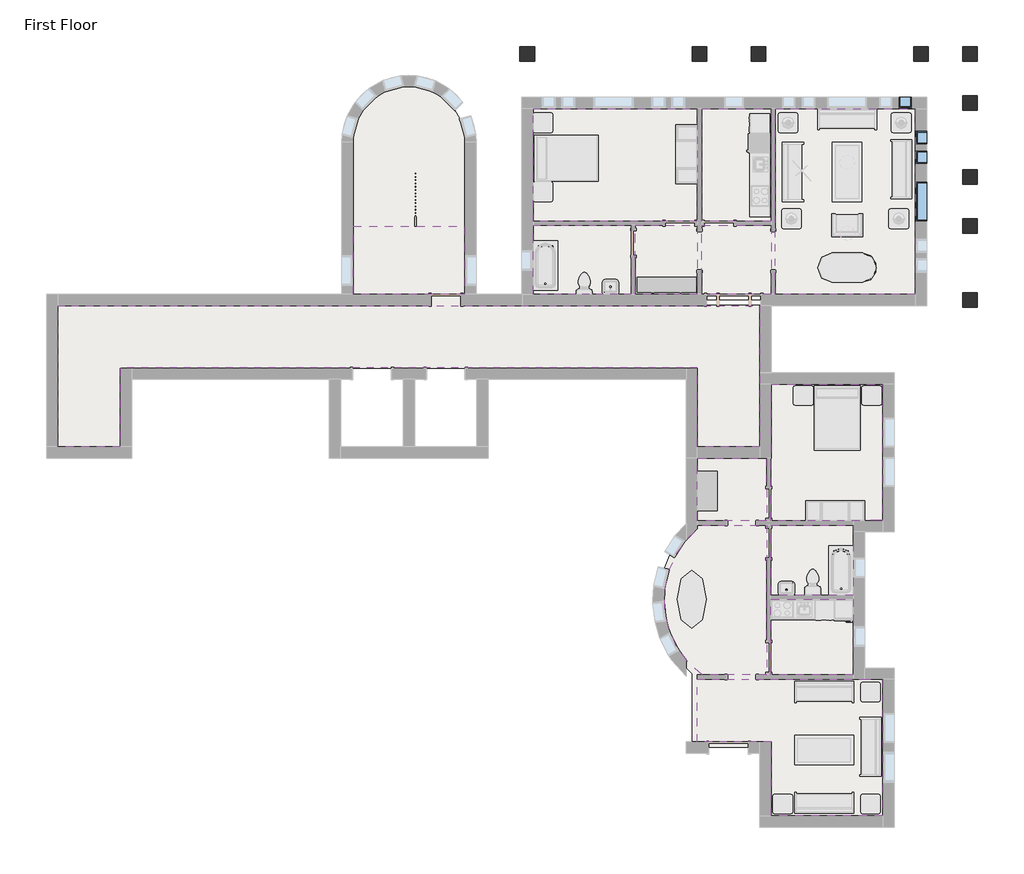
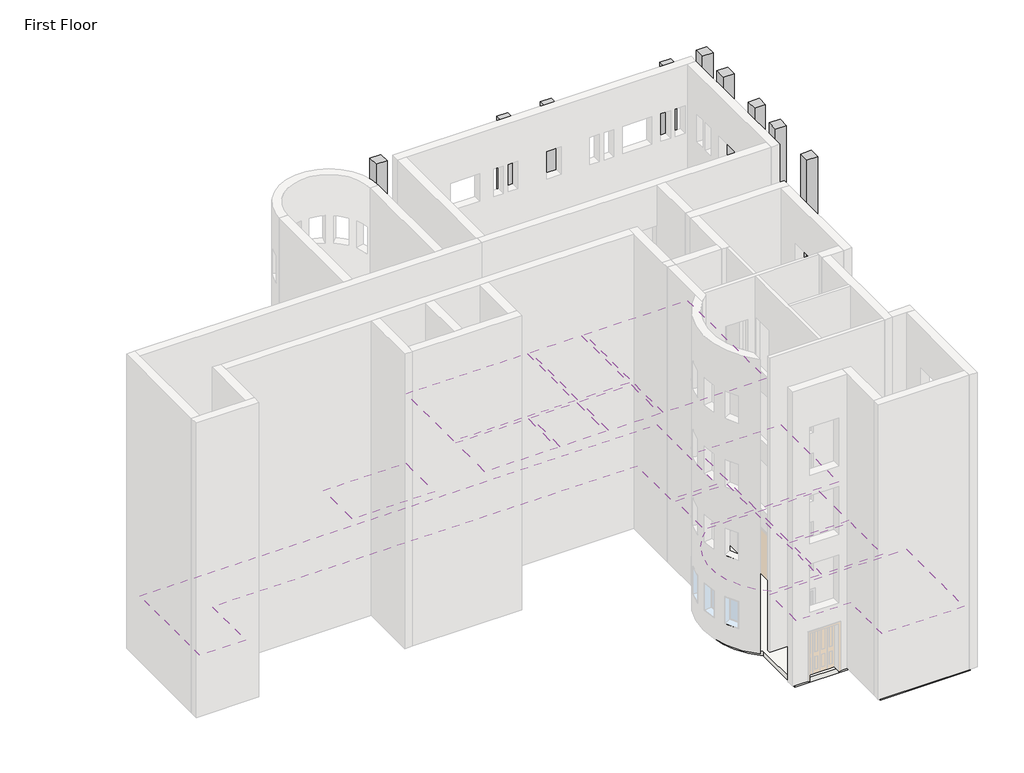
# One storey, part 6 of 8: 14 coverings, 9 columns, 4 windows, 3 slabs.
"""IFC4 building model written with IfcOpenShell, lengths in millimetres."""

from ifc_helpers import new_model, si_unit, point, frame, frame_2d, origin, place, context, project, spatial, polyline, circle_curve, trimmed, segment, composite_curve, outline, extrude, faceted_brep, transform, mapped, element, save
from components import window_da97879f, window_d61ef850, window_6eb97611

model = new_model("IFC4")

# Units and contexts
model_context = context("Model", 3, world=origin())
ifc_project = project(units=[si_unit("LENGTHUNIT", "METRE", prefix="MILLI")], contexts=[model_context])

# Site, building, storey
site = spatial("IfcSite", under=ifc_project)
building = spatial("IfcBuilding", under=site)
storey = spatial("IfcBuildingStorey", under=building, Name="First Floor", Elevation=0.0)

# Columns
placement = place(None, origin())
element("IfcColumn", 1, ObjectType="Concrete-Square-Column : 18 x 18", at=placement, inside=storey, context=model_context, shape_type="Brep", body=[
    faceted_brep([(1027.1410437, 12198.8316867, -2743.2), (1027.1410437, 11741.6316867, -2743.2), (569.9410437, 11741.6316867, -2743.2), (569.9410437, 12198.8316867, -2743.2), (1027.1410437, 12198.8316867, 12039.6), (1027.1410437, 11741.6316867, 12039.6), (1027.1410437, 11741.6316867, 11734.8), (1027.1410437, 11741.6316867, 9144.0), (1027.1410437, 11741.6316867, 8686.8), (1027.1410437, 11741.6316867, 6096.0), (1027.1410437, 11741.6316867, 5638.8), (1027.1410437, 11741.6316867, 3048.0), (1027.1410437, 11741.6316867, 2590.8), (1027.1410437, 12198.8316867, 2590.8), (1027.1410437, 12198.8316867, 3048.0), (1027.1410437, 12198.8316867, 5638.8), (1027.1410437, 12198.8316867, 6096.0), (1027.1410437, 12198.8316867, 8686.8), (1027.1410437, 12198.8316867, 9144.0), (1027.1410437, 12198.8316867, 11734.8), (569.9410437, 11741.6316867, 12039.6), (569.9410437, 11741.6316867, 11734.8), (569.9410437, 11741.6316867, 9144.0), (569.9410437, 11741.6316867, 8686.8), (569.9410437, 11741.6316867, 6096.0), (569.9410437, 11741.6316867, 5638.8), (569.9410437, 11741.6316867, 3048.0), (569.9410437, 11741.6316867, 2590.8), (569.9410437, 12198.8316867, 12039.6), (569.9410437, 12198.8316867, 11734.8), (569.9410437, 12198.8316867, 9144.0), (569.9410437, 12198.8316867, 8686.8), (569.9410437, 12198.8316867, 6096.0), (569.9410437, 12198.8316867, 5638.8), (569.9410437, 12198.8316867, 3048.0), (569.9410437, 12198.8316867, 2590.8)], [[[0, 1, 2, 3]], [[4, 5, 6, 7, 8, 9, 10, 11, 12, 1, 0, 13, 14, 15, 16, 17, 18, 19]], [[5, 20, 21, 22, 23, 24, 25, 26, 27, 2, 1, 12, 11, 10, 9, 8, 7, 6]], [[20, 28, 29, 30, 31, 32, 33, 34, 35, 3, 2, 27, 26, 25, 24, 23, 22, 21]], [[28, 4, 19, 18, 17, 16, 15, 14, 13, 0, 3, 35, 34, 33, 32, 31, 30, 29]], [[4, 28, 20, 5]]]),
])
element("IfcColumn", 2, ObjectType="Concrete-Square-Column : 18 x 18", at=placement, inside=storey, context=model_context, shape_type="Brep", body=[
    faceted_brep([(2551.1410437, 12198.8316867, -2743.2), (2551.1410437, 11741.6316867, -2743.2), (2093.9410437, 11741.6316867, -2743.2), (2093.9410437, 12198.8316867, -2743.2), (2551.1410437, 12198.8316867, 12039.6), (2551.1410437, 11741.6316867, 12039.6), (2551.1410437, 11741.6316867, 11734.8), (2093.9410437, 11741.6316867, 12039.6), (2093.9410437, 11741.6316867, 11734.8), (2093.9410437, 12198.8316867, 12039.6), (2093.9410437, 12198.8316867, 11734.8)], [[[0, 1, 2, 3]], [[4, 5, 6, 1, 0]], [[5, 7, 8, 2, 1, 6]], [[7, 9, 10, 3, 2, 8]], [[9, 4, 0, 3, 10]], [[4, 9, 7, 5]]]),
])
element("IfcColumn", 3, ObjectType="Concrete-Square-Column : 18 x 18", at=placement, inside=storey, context=model_context, shape_type="Brep", body=[
    faceted_brep([(-4002.0589563, 12198.8316867, -2743.2), (-4002.0589563, 11741.6316867, -2743.2), (-4459.2589563, 11741.6316867, -2743.2), (-4459.2589563, 12198.8316867, -2743.2), (-4002.0589563, 12198.8316867, 12039.6), (-4002.0589563, 11741.6316867, 12039.6), (-4002.0589563, 11741.6316867, 11734.8), (-4002.0589563, 11741.6316867, 9144.0), (-4002.0589563, 11741.6316867, 8686.8), (-4002.0589563, 11741.6316867, 6096.0), (-4002.0589563, 11741.6316867, 5638.8), (-4002.0589563, 11741.6316867, 3048.0), (-4002.0589563, 11741.6316867, 2590.8), (-4002.0589563, 12198.8316867, 2590.8), (-4002.0589563, 12198.8316867, 3048.0), (-4002.0589563, 12198.8316867, 5638.8), (-4002.0589563, 12198.8316867, 6096.0), (-4002.0589563, 12198.8316867, 8686.8), (-4002.0589563, 12198.8316867, 9144.0), (-4002.0589563, 12198.8316867, 11734.8), (-4459.2589563, 11741.6316867, 12039.6), (-4459.2589563, 11741.6316867, 11734.8), (-4459.2589563, 11741.6316867, 9144.0), (-4459.2589563, 11741.6316867, 8686.8), (-4459.2589563, 11741.6316867, 6096.0), (-4459.2589563, 11741.6316867, 5638.8), (-4459.2589563, 11741.6316867, 3048.0), (-4459.2589563, 11741.6316867, 2590.8), (-4459.2589563, 12198.8316867, 12039.6), (-4459.2589563, 12198.8316867, 11734.8), (-4459.2589563, 12198.8316867, 9144.0), (-4459.2589563, 12198.8316867, 8686.8), (-4459.2589563, 12198.8316867, 6096.0), (-4459.2589563, 12198.8316867, 5638.8), (-4459.2589563, 12198.8316867, 3048.0), (-4459.2589563, 12198.8316867, 2590.8)], [[[0, 1, 2, 3]], [[4, 5, 6, 7, 8, 9, 10, 11, 12, 1, 0, 13, 14, 15, 16, 17, 18, 19]], [[5, 20, 21, 22, 23, 24, 25, 26, 27, 2, 1, 12, 11, 10, 9, 8, 7, 6]], [[20, 28, 29, 30, 31, 32, 33, 34, 35, 3, 2, 27, 26, 25, 24, 23, 22, 21]], [[28, 4, 19, 18, 17, 16, 15, 14, 13, 0, 3, 35, 34, 33, 32, 31, 30, 29]], [[4, 28, 20, 5]]]),
])
element("IfcColumn", 4, ObjectType="Concrete-Square-Column : 18 x 18", at=placement, inside=storey, context=model_context, shape_type="Brep", body=[
    faceted_brep([(-5830.8589563, 12198.8316867, -2743.2), (-5830.8589563, 11741.6316867, -2743.2), (-6288.0589563, 11741.6316867, -2743.2), (-6288.0589563, 12198.8316867, -2743.2), (-5830.8589563, 12198.8316867, 12039.6), (-5830.8589563, 11741.6316867, 12039.6), (-5830.8589563, 11741.6316867, 11734.8), (-5830.8589563, 11741.6316867, 9144.0), (-5830.8589563, 11741.6316867, 8686.8), (-5830.8589563, 11741.6316867, 6096.0), (-5830.8589563, 11741.6316867, 5638.8), (-5830.8589563, 11741.6316867, 3048.0), (-5830.8589563, 11741.6316867, 2590.8), (-5830.8589563, 12198.8316867, 2590.8), (-5830.8589563, 12198.8316867, 3048.0), (-5830.8589563, 12198.8316867, 5638.8), (-5830.8589563, 12198.8316867, 6096.0), (-5830.8589563, 12198.8316867, 8686.8), (-5830.8589563, 12198.8316867, 9144.0), (-5830.8589563, 12198.8316867, 11734.8), (-6288.0589563, 11741.6316867, 12039.6), (-6288.0589563, 11741.6316867, 11734.8), (-6288.0589563, 11741.6316867, 9144.0), (-6288.0589563, 11741.6316867, 8686.8), (-6288.0589563, 11741.6316867, 6096.0), (-6288.0589563, 11741.6316867, 5638.8), (-6288.0589563, 11741.6316867, 3048.0), (-6288.0589563, 11741.6316867, 2590.8), (-6288.0589563, 12198.8316867, 12039.6), (-6288.0589563, 12198.8316867, 11734.8), (-6288.0589563, 12198.8316867, 9144.0), (-6288.0589563, 12198.8316867, 8686.8), (-6288.0589563, 12198.8316867, 6096.0), (-6288.0589563, 12198.8316867, 5638.8), (-6288.0589563, 12198.8316867, 3048.0), (-6288.0589563, 12198.8316867, 2590.8)], [[[0, 1, 2, 3]], [[4, 5, 6, 7, 8, 9, 10, 11, 12, 1, 0, 13, 14, 15, 16, 17, 18, 19]], [[5, 20, 21, 22, 23, 24, 25, 26, 27, 2, 1, 12, 11, 10, 9, 8, 7, 6]], [[20, 28, 29, 30, 31, 32, 33, 34, 35, 3, 2, 27, 26, 25, 24, 23, 22, 21]], [[28, 4, 19, 18, 17, 16, 15, 14, 13, 0, 3, 35, 34, 33, 32, 31, 30, 29]], [[4, 28, 20, 5]]]),
])
element("IfcColumn", 5, ObjectType="Concrete-Square-Column : 18 x 18", at=placement, inside=storey, context=model_context, shape_type="Brep", body=[
    faceted_brep([(-11164.8589563, 12198.8316867, -2743.2), (-11164.8589563, 11741.6316867, -2743.2), (-11622.0589563, 11741.6316867, -2743.2), (-11622.0589563, 12198.8316867, -2743.2), (-11164.8589563, 12198.8316867, 12039.6), (-11164.8589563, 11741.6316867, 12039.6), (-11164.8589563, 11741.6316867, 11734.8), (-11164.8589563, 12198.8316867, 11734.8), (-11622.0589563, 11741.6316867, 12039.6), (-11622.0589563, 12198.8316867, 12039.6)], [[[0, 1, 2, 3]], [[4, 5, 6, 1, 0, 7]], [[5, 8, 2, 1, 6]], [[8, 9, 3, 2]], [[9, 4, 7, 0, 3]], [[4, 9, 8, 5]]]),
])
element("IfcColumn", 6, ObjectType="Concrete-Square-Column : 18 x 18", at=placement, inside=storey, context=model_context, shape_type="Brep", body=[
    faceted_brep([(2551.1410437, 10674.8316867, -2743.2), (2551.1410437, 10217.6316867, -2743.2), (2093.9410437, 10217.6316867, -2743.2), (2093.9410437, 10674.8316867, -2743.2), (2551.1410437, 10674.8316867, 12039.6), (2551.1410437, 10217.6316867, 12039.6), (2551.1410437, 10217.6316867, 11734.8), (2551.1410437, 10217.6316867, 9144.0), (2551.1410437, 10217.6316867, 8686.8), (2551.1410437, 10217.6316867, 6096.0), (2551.1410437, 10217.6316867, 5638.8), (2551.1410437, 10217.6316867, 3048.0), (2551.1410437, 10217.6316867, 2590.8), (2551.1410437, 10674.8316867, 2590.8), (2551.1410437, 10674.8316867, 3048.0), (2551.1410437, 10674.8316867, 5638.8), (2551.1410437, 10674.8316867, 6096.0), (2551.1410437, 10674.8316867, 8686.8), (2551.1410437, 10674.8316867, 9144.0), (2551.1410437, 10674.8316867, 11734.8), (2093.9410437, 10217.6316867, 12039.6), (2093.9410437, 10217.6316867, 11734.8), (2093.9410437, 10217.6316867, 9144.0), (2093.9410437, 10217.6316867, 8686.8), (2093.9410437, 10217.6316867, 6096.0), (2093.9410437, 10217.6316867, 5638.8), (2093.9410437, 10217.6316867, 3048.0), (2093.9410437, 10217.6316867, 2590.8), (2093.9410437, 10674.8316867, 12039.6), (2093.9410437, 10674.8316867, 11734.8), (2093.9410437, 10674.8316867, 9144.0), (2093.9410437, 10674.8316867, 8686.8), (2093.9410437, 10674.8316867, 6096.0), (2093.9410437, 10674.8316867, 5638.8), (2093.9410437, 10674.8316867, 3048.0), (2093.9410437, 10674.8316867, 2590.8)], [[[0, 1, 2, 3]], [[4, 5, 6, 7, 8, 9, 10, 11, 12, 1, 0, 13, 14, 15, 16, 17, 18, 19]], [[5, 20, 21, 22, 23, 24, 25, 26, 27, 2, 1, 12, 11, 10, 9, 8, 7, 6]], [[20, 28, 29, 30, 31, 32, 33, 34, 35, 3, 2, 27, 26, 25, 24, 23, 22, 21]], [[28, 4, 19, 18, 17, 16, 15, 14, 13, 0, 3, 35, 34, 33, 32, 31, 30, 29]], [[4, 28, 20, 5]]]),
])
element("IfcColumn", 7, ObjectType="Concrete-Square-Column : 18 x 18", at=placement, inside=storey, context=model_context, shape_type="Brep", body=[
    faceted_brep([(2551.1410437, 8388.8316867, -2743.2), (2551.1410437, 7931.6316867, -2743.2), (2093.9410437, 7931.6316867, -2743.2), (2093.9410437, 8388.8316867, -2743.2), (2551.1410437, 8388.8316867, 12039.6), (2551.1410437, 7931.6316867, 12039.6), (2551.1410437, 7931.6316867, 11734.8), (2551.1410437, 7931.6316867, 9144.0), (2551.1410437, 7931.6316867, 8686.8), (2551.1410437, 7931.6316867, 6096.0), (2551.1410437, 7931.6316867, 5638.8), (2551.1410437, 7931.6316867, 3048.0), (2551.1410437, 7931.6316867, 2590.8), (2551.1410437, 8388.8316867, 2590.8), (2551.1410437, 8388.8316867, 3048.0), (2551.1410437, 8388.8316867, 5638.8), (2551.1410437, 8388.8316867, 6096.0), (2551.1410437, 8388.8316867, 8686.8), (2551.1410437, 8388.8316867, 9144.0), (2551.1410437, 8388.8316867, 11734.8), (2093.9410437, 7931.6316867, 12039.6), (2093.9410437, 7931.6316867, 11734.8), (2093.9410437, 7931.6316867, 9144.0), (2093.9410437, 7931.6316867, 8686.8), (2093.9410437, 7931.6316867, 6096.0), (2093.9410437, 7931.6316867, 5638.8), (2093.9410437, 7931.6316867, 3048.0), (2093.9410437, 7931.6316867, 2590.8), (2093.9410437, 8388.8316867, 12039.6), (2093.9410437, 8388.8316867, 11734.8), (2093.9410437, 8388.8316867, 9144.0), (2093.9410437, 8388.8316867, 8686.8), (2093.9410437, 8388.8316867, 6096.0), (2093.9410437, 8388.8316867, 5638.8), (2093.9410437, 8388.8316867, 3048.0), (2093.9410437, 8388.8316867, 2590.8)], [[[0, 1, 2, 3]], [[4, 5, 6, 7, 8, 9, 10, 11, 12, 1, 0, 13, 14, 15, 16, 17, 18, 19]], [[5, 20, 21, 22, 23, 24, 25, 26, 27, 2, 1, 12, 11, 10, 9, 8, 7, 6]], [[20, 28, 29, 30, 31, 32, 33, 34, 35, 3, 2, 27, 26, 25, 24, 23, 22, 21]], [[28, 4, 19, 18, 17, 16, 15, 14, 13, 0, 3, 35, 34, 33, 32, 31, 30, 29]], [[4, 28, 20, 5]]]),
])
element("IfcColumn", 8, ObjectType="Concrete-Square-Column : 18 x 18", at=placement, inside=storey, context=model_context, shape_type="Brep", body=[
    faceted_brep([(2551.1410437, 6864.8316867, -2743.2), (2551.1410437, 6407.6316867, -2743.2), (2093.9410437, 6407.6316867, -2743.2), (2093.9410437, 6864.8316867, -2743.2), (2551.1410437, 6864.8316867, 12039.6), (2551.1410437, 6407.6316867, 12039.6), (2551.1410437, 6407.6316867, 11734.8), (2551.1410437, 6407.6316867, 9144.0), (2551.1410437, 6407.6316867, 8686.8), (2551.1410437, 6407.6316867, 6096.0), (2551.1410437, 6407.6316867, 5638.8), (2551.1410437, 6407.6316867, 3048.0), (2551.1410437, 6407.6316867, 2590.8), (2551.1410437, 6864.8316867, 2590.8), (2551.1410437, 6864.8316867, 3048.0), (2551.1410437, 6864.8316867, 5638.8), (2551.1410437, 6864.8316867, 6096.0), (2551.1410437, 6864.8316867, 8686.8), (2551.1410437, 6864.8316867, 9144.0), (2551.1410437, 6864.8316867, 11734.8), (2093.9410437, 6407.6316867, 12039.6), (2093.9410437, 6407.6316867, 11734.8), (2093.9410437, 6407.6316867, 9144.0), (2093.9410437, 6407.6316867, 8686.8), (2093.9410437, 6407.6316867, 6096.0), (2093.9410437, 6407.6316867, 5638.8), (2093.9410437, 6407.6316867, 3048.0), (2093.9410437, 6407.6316867, 2590.8), (2093.9410437, 6864.8316867, 12039.6), (2093.9410437, 6864.8316867, 11734.8), (2093.9410437, 6864.8316867, 9144.0), (2093.9410437, 6864.8316867, 8686.8), (2093.9410437, 6864.8316867, 6096.0), (2093.9410437, 6864.8316867, 5638.8), (2093.9410437, 6864.8316867, 3048.0), (2093.9410437, 6864.8316867, 2590.8)], [[[0, 1, 2, 3]], [[4, 5, 6, 7, 8, 9, 10, 11, 12, 1, 0, 13, 14, 15, 16, 17, 18, 19]], [[5, 20, 21, 22, 23, 24, 25, 26, 27, 2, 1, 12, 11, 10, 9, 8, 7, 6]], [[20, 28, 29, 30, 31, 32, 33, 34, 35, 3, 2, 27, 26, 25, 24, 23, 22, 21]], [[28, 4, 19, 18, 17, 16, 15, 14, 13, 0, 3, 35, 34, 33, 32, 31, 30, 29]], [[4, 28, 20, 5]]]),
])
element("IfcColumn", 9, ObjectType="Concrete-Square-Column : 18 x 18", at=placement, inside=storey, context=model_context, shape_type="Brep", body=[
    faceted_brep([(2551.1410437, 4578.8316867, -2743.2), (2551.1410437, 4121.6316867, -2743.2), (2093.9410437, 4121.6316867, -2743.2), (2093.9410437, 4578.8316867, -2743.2), (2551.1410437, 4578.8316867, 12039.6), (2551.1410437, 4121.6316867, 12039.6), (2551.1410437, 4578.8316867, 11734.8), (2093.9410437, 4121.6316867, 12039.6), (2093.9410437, 4578.8316867, 12039.6), (2093.9410437, 4578.8316867, 11734.8)], [[[0, 1, 2, 3]], [[4, 5, 1, 0, 6]], [[5, 7, 2, 1]], [[7, 8, 9, 3, 2]], [[8, 4, 6, 0, 3, 9]], [[4, 8, 7, 5]]]),
])

# Coverings
element("IfcCovering", 10, ObjectType="GWB on Mtl. Stud", at=placement, inside=storey, context=model_context, shape_type="SweptSolid", body=[
    extrude(outline(polyline([(-11217.2464563, 10270.0191867), (-6122.9589563, 10270.0191867), (-6122.9589563, 6787.0441867), (-11217.2464563, 6787.0441867), (-11217.2464563, 10270.0191867)])), frame((0.0, 0.0, 2590.8), z_axis=(0.0, 0.0, 1.0), x_axis=(1.0, 0.0, 0.0)), (0.0, 0.0, 1.0), 107.95),
])
element("IfcCovering", 11, ObjectType="GWB on Mtl. Stud", at=placement, inside=storey, context=model_context, shape_type="SweptSolid", body=[
    extrude(outline(polyline([(-5995.9589563, 6787.0441867), (-5995.9589563, 10270.0191867), (-3836.9589563, 10270.0191867), (-3836.9589563, 6787.0441867), (-5995.9589563, 6787.0441867)])), frame((0.0, 0.0, 2590.8), z_axis=(0.0, 0.0, 1.0), x_axis=(1.0, 0.0, 0.0)), (0.0, 0.0, 1.0), 107.95),
])
element("IfcCovering", 12, ObjectType="GWB on Mtl. Stud", at=placement, inside=storey, context=model_context, shape_type="SweptSolid", body=[
    extrude(outline(polyline([(-3709.9589563, 4526.4441867), (-3709.9589563, 10270.0191867), (622.3285437, 10270.0191867), (622.3285437, 4526.4441867), (-3709.9589563, 4526.4441867)])), frame((0.0, 0.0, 2590.8), z_axis=(0.0, 0.0, 1.0), x_axis=(1.0, 0.0, 0.0)), (0.0, 0.0, 1.0), 107.95),
])
element("IfcCovering", 13, ObjectType="GWB on Mtl. Stud", at=placement, inside=storey, context=model_context, shape_type="SweptSolid", body=[
    extrude(outline(polyline([(-3836.9589563, 4526.4441867), (-5995.9589563, 4526.4441867), (-5995.9589563, 6660.0441867), (-3836.9589563, 6660.0441867), (-3836.9589563, 4526.4441867)])), frame((0.0, 0.0, 2590.8), z_axis=(0.0, 0.0, 1.0), x_axis=(1.0, 0.0, 0.0)), (0.0, 0.0, 1.0), 107.95),
])
element("IfcCovering", 14, ObjectType="GWB on Mtl. Stud", at=placement, inside=storey, context=model_context, shape_type="SweptSolid", body=[
    extrude(outline(polyline([(-8169.2464563, 6660.0441867), (-8169.2464563, 4526.4441867), (-11217.2464563, 4526.4441867), (-11217.2464563, 6660.0441867), (-8169.2464563, 6660.0441867)])), frame((0.0, 0.0, 2590.8), z_axis=(0.0, 0.0, 1.0), x_axis=(1.0, 0.0, 0.0)), (0.0, 0.0, 1.0), 107.95),
])
element("IfcCovering", 15, ObjectType="GWB on Mtl. Stud", at=placement, inside=storey, context=model_context, shape_type="SweptSolid", body=[
    extrude(outline(polyline([(-6122.9589563, 4526.4441867), (-8042.2464563, 4526.4441867), (-8042.2464563, 6660.0441867), (-6122.9589563, 6660.0441867), (-6122.9589563, 4526.4441867)])), frame((0.0, 0.0, 2590.8), z_axis=(0.0, 0.0, 1.0), x_axis=(1.0, 0.0, 0.0)), (0.0, 0.0, 1.0), 107.95),
])
element("IfcCovering", 16, ObjectType="GWB on Mtl. Stud", at=placement, inside=storey, context=model_context, shape_type="SweptSolid", body=[
    extrude(outline(polyline([(-13333.3839563, 4526.4441867), (-16790.9589563, 4526.4441867), (-16790.9589563, 6636.2316867), (-13333.3839563, 6636.2316867), (-13333.3839563, 4526.4441867)])), frame((0.0, 0.0, 2438.4), z_axis=(0.0, 0.0, 1.0), x_axis=(1.0, 0.0, 0.0)), (0.0, 0.0, 1.0), 107.95),
])
element("IfcCovering", 17, ObjectType="GWB on Mtl. Stud", at=placement, inside=storey, context=model_context, shape_type="SweptSolid", body=[
    extrude(outline(polyline([(-6122.9589563, -197.9558133), (-6122.9589563, 2240.4441867), (-24001.3839563, 2240.4441867), (-24001.3839563, -197.9558133), (-25934.9589563, -197.9558133), (-25934.9589563, 4174.0191867), (-4189.3839563, 4174.0191867), (-4189.3839563, -197.9558133), (-6122.9589563, -197.9558133)])), frame((0.0, 0.0, 2438.4), z_axis=(0.0, 0.0, 1.0), x_axis=(1.0, 0.0, 0.0)), (0.0, 0.0, 1.0), 107.95),
])
element("IfcCovering", 18, ObjectType="Plain", at=placement, inside=storey, context=model_context, shape_type="SweptSolid", body=[
    extrude(outline(polyline([(-3836.9589563, -374.1683133), (-3836.9589563, 1735.6191867), (-379.3839563, 1735.6191867), (-379.3839563, -2483.9558133), (-1117.5714563, -2483.9558133), (-1117.5714563, -2492.4183133), (-3845.4214563, -2492.4183133), (-3845.4214563, -374.1683133), (-3836.9589563, -374.1683133)])), frame((0.0, 0.0, 2591.0), z_axis=(0.0, 0.0, 1.0), x_axis=(1.0, 0.0, 0.0)), (0.0, 0.0, 1.0), 57.0),
])
element("IfcCovering", 19, ObjectType="Plain", at=placement, inside=storey, context=model_context, shape_type="SweptSolid", body=[
    extrude(outline(polyline([(-3845.4214563, -2627.9183133), (-1293.7839563, -2627.9183133), (-1293.7839563, -4793.7683133), (-3845.4214563, -4793.7683133), (-3845.4214563, -2627.9183133)])), frame((0.0, 0.0, 2591.0), z_axis=(0.0, 0.0, 1.0), x_axis=(1.0, 0.0, 0.0)), (0.0, 0.0, 1.0), 57.0),
])
element("IfcCovering", 20, ObjectType="Plain", at=placement, inside=storey, context=model_context, shape_type="SweptSolid", body=[
    extrude(outline(polyline([(-3845.4214563, -4929.2683133), (-1293.7839563, -4929.2683133), (-1293.7839563, -7264.4183133), (-3845.4214563, -7264.4183133), (-3845.4214563, -4929.2683133)])), frame((0.0, 0.0, 2591.0), z_axis=(0.0, 0.0, 1.0), x_axis=(1.0, 0.0, 0.0)), (0.0, 0.0, 1.0), 57.0),
])
element("IfcCovering", 21, ObjectType="Plain", at=placement, inside=storey, context=model_context, shape_type="SweptSolid", body=[
    extrude(outline(polyline([(-6122.9589563, -7399.9183133), (-1117.5714563, -7399.9183133), (-1117.5714563, -7408.3808133), (-379.3839563, -7408.3808133), (-379.3839563, -11627.9558133), (-3836.9589563, -11627.9558133), (-3836.9589563, -9341.9558133), (-6122.9589563, -9341.9558133), (-6122.9589563, -7399.9183133)])), frame((0.0, 0.0, 2591.0), z_axis=(0.0, 0.0, 1.0), x_axis=(1.0, 0.0, 0.0)), (0.0, 0.0, 1.0), 57.0),
])
element("IfcCovering", 22, ObjectType="Plain", at=placement, inside=storey, context=model_context, shape_type="SweptSolid", body=[
    extrude(outline(composite_curve([segment(trimmed(circle_curve(frame_2d((-4283.1089573, -4946.1683133)), 2871.7875), [point((-5978.0662968, -7264.4183133))], [point((-5978.0662968, -2627.9183133))], False, "CARTESIAN"), True, "CONTINUOUS"), segment(polyline([(-5978.0662968, -2627.9183133), (-3980.9214563, -2627.9183133), (-3980.9214563, -7264.4183133), (-5978.0662968, -7264.4183133)]), True, "CONTINUOUS")], self_intersect=False)), frame((0.0, 0.0, 2591.0), z_axis=(0.0, 0.0, 1.0), x_axis=(1.0, 0.0, 0.0)), (0.0, 0.0, 1.0), 57.0),
])
element("IfcCovering", 23, ObjectType="Plain", at=placement, inside=storey, context=model_context, shape_type="SweptSolid", body=[
    extrude(outline(polyline([(-6122.9589563, -2492.4183133), (-6122.9589563, -550.3808133), (-3980.9214563, -550.3808133), (-3980.9214563, -2492.4183133), (-6122.9589563, -2492.4183133)])), frame((0.0, 0.0, 2591.0), z_axis=(0.0, 0.0, 1.0), x_axis=(1.0, 0.0, 0.0)), (0.0, 0.0, 1.0), 57.0),
])

# Slabs
element("IfcSlab", 24, ObjectType="160mm Concrete With 50mm Metal Deck", at=placement, inside=storey, context=model_context, shape_type="SweptSolid", body=[
    extrude(outline(composite_curve([segment(polyline([(-214.2839563, 1900.7191867), (-214.2839563, -2649.0558133), (-1128.6839563, -2649.0558133), (-1128.6839563, -7243.2808133), (-214.2839563, -7243.2808133), (-214.2839563, -11793.0558133), (-4002.0589563, -11793.0558133), (-4002.0589563, -9507.0558133), (-6288.0589563, -9507.0558133), (-6288.0589563, -7227.1464344)]), True, "CONTINUOUS"), segment(trimmed(circle_curve(frame_2d((-4283.1089573, -4946.1683133)), 3036.8875), [point((-6288.0589563, -7227.1464344))], [point((-6288.0589563, -2665.1901922))], False, "CARTESIAN"), True, "CONTINUOUS"), segment(polyline([(-6288.0589563, -2665.1901922), (-6288.0589563, -385.2808133), (-4002.0589563, -385.2808133), (-4002.0589563, 1900.7191867), (-214.2839563, 1900.7191867)]), True, "CONTINUOUS")], self_intersect=False)), frame((0.0, 0.0, -210.0), z_axis=(0.0, 0.0, 1.0), x_axis=(1.0, 0.0, 0.0)), (0.0, 0.0, 1.0), 210.0),
])
element("IfcSlab", 25, ObjectType="LW Concrete on Metal Deck", at=placement, inside=storey, context=model_context, shape_type="SweptSolid", body=[
    extrude(outline(polyline([(787.4285437, 10435.1191867), (787.4285437, 4361.3441867), (-11382.3464563, 4361.3441867), (-11382.3464563, 10435.1191867), (787.4285437, 10435.1191867)])), frame((0.0, 0.0, -104.775), z_axis=(0.0, 0.0, 1.0), x_axis=(1.0, 0.0, 0.0)), (0.0, 0.0, 1.0), 104.775),
])
element("IfcSlab", 26, ObjectType="LW Concrete on Metal Deck", at=placement, inside=storey, context=model_context, shape_type="SweptSolid", body=[
    extrude(outline(composite_curve([segment(polyline([(-13320.6839563, 9227.0316867), (-13320.6839563, 4186.7191867), (-4189.3839563, 4186.7191867), (-4189.3839563, -197.9558133), (-6135.6589563, -197.9558133), (-6135.6589563, 2227.7441867), (-23988.6839563, 2227.7441867), (-23988.6839563, -197.9558133), (-25934.9589563, -197.9558133), (-25934.9589563, 4186.7191867), (-16803.6589563, 4186.7191867), (-16803.6589563, 9227.0316867)]), True, "CONTINUOUS"), segment(trimmed(circle_curve(frame_2d((-15062.1714563, 9227.0316867)), 1741.4875), [point((-16803.6589563, 9227.0316867))], [point((-13320.6839563, 9227.0316867))], False, "CARTESIAN"), True, "CONTINUOUS")], self_intersect=False)), frame((0.0, 0.0, -104.775), z_axis=(0.0, 0.0, 1.0), x_axis=(1.0, 0.0, 0.0)), (0.0, 0.0, 1.0), 104.775),
])

# Windows
window_shape = window_da97879f(model_context)
element("IfcWindow", 27, ObjectType="Fixed : 16\" x 48\"", at=placement, inside=storey, context=model_context, shape_type="MappedRepresentation", body=[
    mapped(window_shape, transform((798.5410437, 9417.5316867, 0.0), x_axis=(0.0, 1.0, 0.0), y_axis=(-1.0, 0.0, 0.0), z_axis=(0.0, 0.0, 1.0))),
])
element("IfcWindow", 28, ObjectType="Fixed : 16\" x 48\"", at=placement, inside=storey, context=model_context, shape_type="MappedRepresentation", body=[
    mapped(window_shape, transform((798.5410437, 8807.9316867, 0.0), x_axis=(0.0, 1.0, 0.0), y_axis=(-1.0, 0.0, 0.0), z_axis=(0.0, 0.0, 1.0))),
])
window_2_shape = window_d61ef850(model_context)
element("IfcWindow", 29, ObjectType="Fixed : 16\" x 48\"", at=placement, inside=storey, context=model_context, shape_type="MappedRepresentation", body=[
    mapped(window_2_shape, transform((354.0410437, 10446.2316867, 0.0), x_axis=(1.0, 0.0, 0.0), y_axis=(0.0, 1.0, 0.0), z_axis=(0.0, 0.0, 1.0))),
])
window_3_shape = window_6eb97611(model_context)
element("IfcWindow", 30, ObjectType="Fixed : 48\" x 48\"", at=placement, inside=storey, context=model_context, shape_type="MappedRepresentation", body=[
    mapped(window_3_shape, transform((798.5410437, 7436.3316867, 0.0), x_axis=(0.0, 1.0, 0.0), y_axis=(-1.0, 0.0, 0.0), z_axis=(0.0, 0.0, 1.0))),
])

save(model, "model.ifc")
